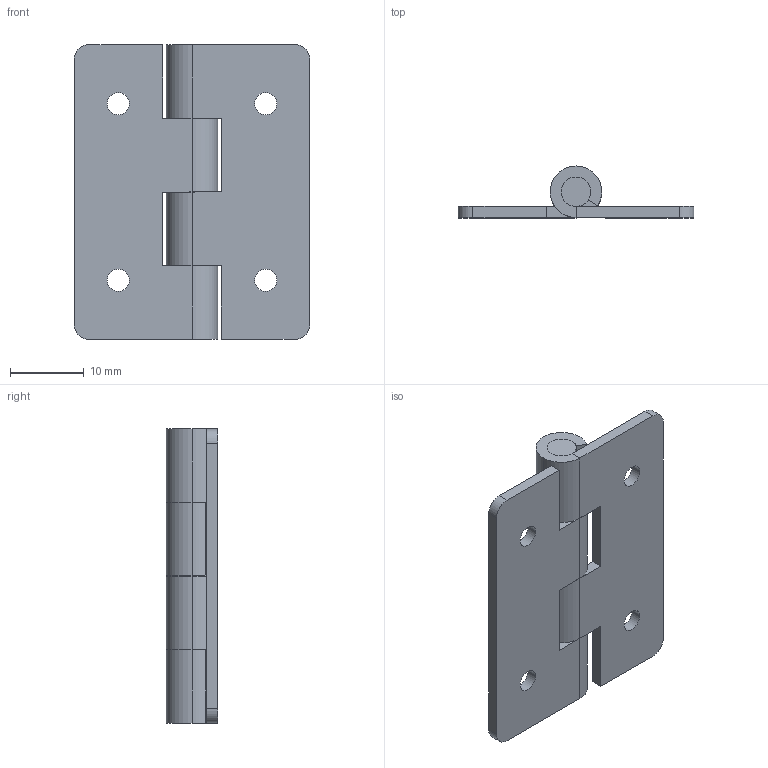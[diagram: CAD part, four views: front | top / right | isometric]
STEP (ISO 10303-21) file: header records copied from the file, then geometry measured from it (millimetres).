
FILE_DESCRIPTION (( 'STEP AP214' ), '1' );
FILE_NAME ('SK2-0510-4.STEP', '2020-03-26T02:44:11', ( 'admin' ), ( 'Microsoft' ), 'SwSTEP 2.0', 'SolidWorks 2018', '' );
FILE_SCHEMA (( 'AUTOMOTIVE_DESIGN' ));
Length unit declared in the file: millimetre
Products named in the file (3): 2-0510-4-F2; 2-0510-4-F1; SK2-0510-4
Assembly tree (3 placements, depth 2):
  SK2-0510-4
    2-0510-4-F1  x2
    2-0510-4-F2
Bounding box: 32 x 7 x 40 mm (x, y, z)
Volume: 3007.3 mm3; surface area: 4453.2 mm2
Topology: 3 solids, 3 shells, 72 faces, 182 edges, 116 vertices
Faces by surface type: cylinder 38, plane 34
Entity records: 1260 total; most frequent: DIRECTION 222, CARTESIAN_POINT 198, ORIENTED_EDGE 188, EDGE_CURVE 94, AXIS2_PLACEMENT_3D 84, VERTEX_POINT 60, LINE 54, VECTOR 54
